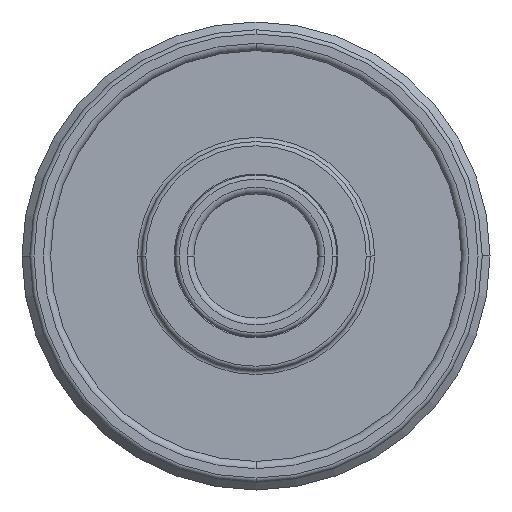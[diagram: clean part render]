
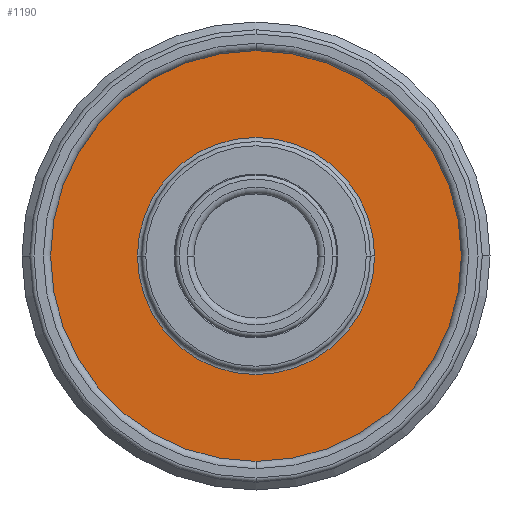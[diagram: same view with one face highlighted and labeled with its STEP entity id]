
A CAD part, front view. The second image highlights one B-rep face of the part: STEP entity #1190.
In plain terms, the highlighted planar face has unit normal (0, -1, 0).
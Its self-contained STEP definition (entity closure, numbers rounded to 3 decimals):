
#796=FACE_BOUND('',#1551,.T.);
#797=FACE_BOUND('',#1552,.T.);
#828=PLANE('',#3298);
#1190=ADVANCED_FACE('',(#796,#797),#828,.F.);
#1551=EDGE_LOOP('',(#1864,#1865));
#1552=EDGE_LOOP('',(#1866,#1867));
#1864=ORIENTED_EDGE('',*,*,#2732,.T.);
#1865=ORIENTED_EDGE('',*,*,#2618,.T.);
#1866=ORIENTED_EDGE('',*,*,#2733,.T.);
#1867=ORIENTED_EDGE('',*,*,#2626,.T.);
#2404=VERTEX_POINT('',#4474);
#2405=VERTEX_POINT('',#4475);
#2412=VERTEX_POINT('',#4492);
#2413=VERTEX_POINT('',#4493);
#2618=EDGE_CURVE('',#2404,#2405,#2968,.T.);
#2626=EDGE_CURVE('',#2412,#2413,#2976,.T.);
#2732=EDGE_CURVE('',#2405,#2404,#3032,.T.);
#2733=EDGE_CURVE('',#2413,#2412,#3033,.T.);
#2968=CIRCLE('',#3196,11.4);
#2976=CIRCLE('',#3206,21.4);
#3032=CIRCLE('',#3296,11.4);
#3033=CIRCLE('',#3297,21.4);
#3196=AXIS2_PLACEMENT_3D('',#4473,#3609,#3610);
#3206=AXIS2_PLACEMENT_3D('',#4491,#3629,#3630);
#3296=AXIS2_PLACEMENT_3D('',#4884,#3843,#3844);
#3297=AXIS2_PLACEMENT_3D('',#4885,#3845,#3846);
#3298=AXIS2_PLACEMENT_3D('',#4886,#3847,#3848);
#3609=DIRECTION('',(0.,1.,0.));
#3610=DIRECTION('',(-1.,0.,0.));
#3629=DIRECTION('',(0.,-1.,0.));
#3630=DIRECTION('',(-1.,0.,0.));
#3843=DIRECTION('',(0.,1.,0.));
#3844=DIRECTION('',(-1.,0.,0.));
#3845=DIRECTION('',(0.,-1.,0.));
#3846=DIRECTION('',(-1.,0.,0.));
#3847=DIRECTION('',(0.,1.,0.));
#3848=DIRECTION('',(1.,0.,0.));
#4473=CARTESIAN_POINT('',(0.,21.6,0.));
#4474=CARTESIAN_POINT('',(11.4,21.6,0.));
#4475=CARTESIAN_POINT('',(-11.4,21.6,0.));
#4491=CARTESIAN_POINT('',(0.,21.6,0.));
#4492=CARTESIAN_POINT('',(21.4,21.6,0.));
#4493=CARTESIAN_POINT('',(-21.4,21.6,0.));
#4884=CARTESIAN_POINT('',(0.,21.6,0.));
#4885=CARTESIAN_POINT('',(0.,21.6,0.));
#4886=CARTESIAN_POINT('',(21.6,21.6,0.));
